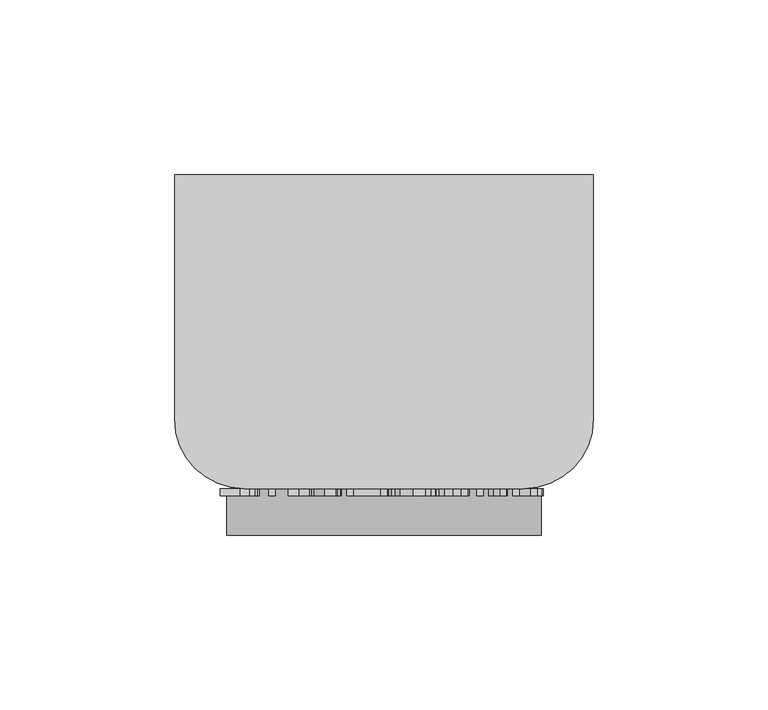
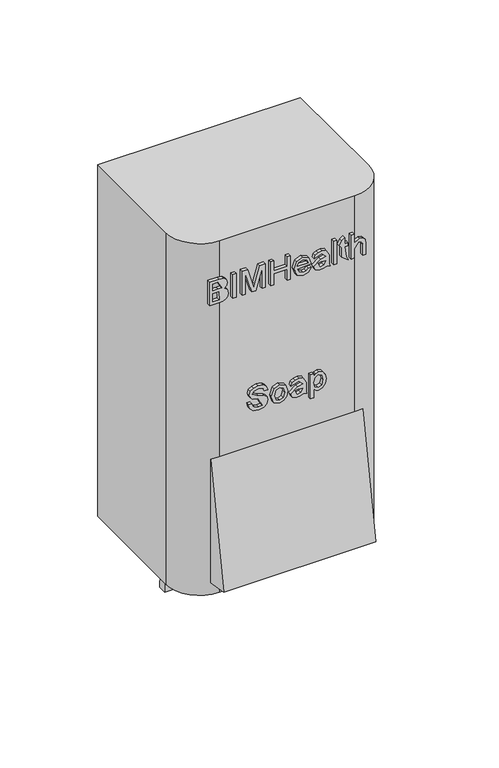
"""IFC4 building model written with IfcOpenShell, lengths in millimetres: furniture geometry, BIMHealth-Soap_Dispenser-LOD2A-v1 : BIMHealth-Soap_Dispenser-LOD2A-v1."""

import ifcopenshell
import ifcopenshell.guid

model = None  # the IFC model being written
_history = None  # IfcOwnerHistory: only IFC2X3 demands one
_inside = {}  # id of a spatial element -> (the spatial element, [elements in it])
_under = {}  # id of a project, library or spatial element -> (it, [spatial elements below it])
_declared = {}  # id of a project -> (the project, [libraries it declares])
_typed = {}  # id of a type object -> (the type object, [elements of that type])
_made_of = {}  # id of a material, layer set ... -> (it, [elements and type objects made of it])


def new_model(schema):
    """Start an empty IFC model of exactly this schema.

    Asked for "IFC4X3", IfcOpenShell would pick the latest addendum, in which some entities
    have other attributes; the version numbers below select the first issue.
    IFC2X3 requires an IfcOwnerHistory on every rooted entity: one is made here for all.
    """
    global model, _history
    if schema == "IFC4X3":
        model = ifcopenshell.file(schema_version=(4, 3, 0, 0))
    else:
        model = ifcopenshell.file(schema=schema)
    _inside.clear()
    _under.clear()
    _declared.clear()
    _typed.clear()
    _made_of.clear()
    _history = None
    if model.schema == "IFC2X3":
        org = make("IfcOrganization", Name="unknown")
        user = make(
            "IfcPersonAndOrganization",
            ThePerson=make("IfcPerson", FamilyName="unknown"),
            TheOrganization=org,
        )
        app = make(
            "IfcApplication",
            ApplicationDeveloper=org,
            Version="unknown",
            ApplicationFullName="unknown",
            ApplicationIdentifier="unknown",
        )
        _history = make(
            "IfcOwnerHistory",
            OwningUser=user,
            OwningApplication=app,
            ChangeAction="ADDED",
            CreationDate=0,
        )
    return model


def make(cls, **values):
    """One entity of the class cls with the attributes given. An attribute that is None is left unset."""
    return model.create_entity(
        cls, **{name: value for name, value in values.items() if value is not None}
    )


def rooted(cls, **values):
    """An entity with a GlobalId (a new one), such as an element, a storey or a relation."""
    return make(cls, GlobalId=ifcopenshell.guid.new(), OwnerHistory=_history, **values)


def si_unit(unit_type, name, prefix=None):
    """IfcSIUnit, for example si_unit("LENGTHUNIT", "METRE", prefix="MILLI")."""
    return make("IfcSIUnit", UnitType=unit_type, Prefix=prefix, Name=name)


def assignment(units):
    """IfcUnitAssignment: the units of a project."""
    return None if units is None else make("IfcUnitAssignment", Units=units)


def point(xyz):
    """IfcCartesianPoint."""
    return None if xyz is None else make("IfcCartesianPoint", Coordinates=xyz)


def direction(xyz):
    """IfcDirection."""
    return None if xyz is None else make("IfcDirection", DirectionRatios=xyz)


def frame(location, z_axis=None, x_axis=None):
    """IfcAxis2Placement3D, a coordinate frame: its origin and axes. An axis left out is left unset."""
    return make(
        "IfcAxis2Placement3D",
        Location=point(location),
        Axis=direction(z_axis),
        RefDirection=direction(x_axis),
    )


def frame_2d(location, x_axis=None):
    """IfcAxis2Placement2D, a coordinate frame in the plane: its origin and x axis."""
    return make(
        "IfcAxis2Placement2D", Location=point(location), RefDirection=direction(x_axis)
    )


def origin():
    """The frame at (0, 0, 0) with its axes left unset."""
    return frame((0.0, 0.0, 0.0))


def place(relative_to, where):
    """IfcLocalPlacement: puts the frame where relative to a parent placement (None: the world)."""
    return make(
        "IfcLocalPlacement", PlacementRelTo=relative_to, RelativePlacement=where
    )


def context(
    kind, dimensions, precision=None, world=None, true_north=None, identifier=None
):
    """IfcGeometricRepresentationContext, for example the 3D "Model" context."""
    return make(
        "IfcGeometricRepresentationContext",
        ContextIdentifier=identifier,
        ContextType=kind,
        CoordinateSpaceDimension=dimensions,
        Precision=precision,
        WorldCoordinateSystem=world,
        TrueNorth=true_north,
    )


def project(units=None, contexts=None):
    """IfcProject with its units and contexts."""
    return rooted(
        "IfcProject",
        Name="project",
        RepresentationContexts=contexts,
        UnitsInContext=assignment(units),
    )


def spatial(cls, under=None, at=None, **own):
    """A site, building, storey or space (cls), placed at a placement, below another one or the project."""
    s = rooted(cls, ObjectPlacement=at, **own)
    if under is not None:
        _under.setdefault(under.id(), (under, []))[1].append(s)
    return s


def polyline(points):
    """IfcPolyline through the points."""
    return make("IfcPolyline", Points=[point(p) for p in points])


def circle_curve(where, radius):
    """IfcCircle in the frame where."""
    return make("IfcCircle", Position=where, Radius=radius)


def trimmed(basis, trim1, trim2, sense, master):
    """IfcTrimmedCurve: the piece of a basis curve between two trims."""
    return make(
        "IfcTrimmedCurve",
        BasisCurve=basis,
        Trim1=trim1,
        Trim2=trim2,
        SenseAgreement=sense,
        MasterRepresentation=master,
    )


def segment(curve, same_sense, transition):
    """IfcCompositeCurveSegment."""
    return make(
        "IfcCompositeCurveSegment",
        Transition=transition,
        SameSense=same_sense,
        ParentCurve=curve,
    )


def composite_curve(segments, self_intersect=None):
    """IfcCompositeCurve: segments joined end to end."""
    return make("IfcCompositeCurve", Segments=segments, SelfIntersect=self_intersect)


def outline(outer, holes=None, kind="AREA"):
    """IfcArbitraryClosedProfileDef: a profile drawn as a closed curve; with holes, ...WithVoids."""
    if holes is None:
        return make("IfcArbitraryClosedProfileDef", ProfileType=kind, OuterCurve=outer)
    return make(
        "IfcArbitraryProfileDefWithVoids",
        ProfileType=kind,
        OuterCurve=outer,
        InnerCurves=holes,
    )


def extrude(swept, where, along, depth):
    """IfcExtrudedAreaSolid: the profile swept, set in the frame where, extruded along a direction by depth."""
    return make(
        "IfcExtrudedAreaSolid",
        SweptArea=swept,
        Position=where,
        ExtrudedDirection=direction(along),
        Depth=depth,
    )


def shape(context_of_items, identifier, shape_type, items):
    """IfcShapeRepresentation: the items that make up one representation, for example the "Body"."""
    return make(
        "IfcShapeRepresentation",
        ContextOfItems=context_of_items,
        RepresentationIdentifier=identifier,
        RepresentationType=shape_type,
        Items=items,
    )


def source(mapping_origin, context_of_items, identifier, shape_type, items):
    """IfcRepresentationMap: a shape defined once, which mapped items show again and again."""
    return make(
        "IfcRepresentationMap",
        MappingOrigin=mapping_origin,
        MappedRepresentation=shape(context_of_items, identifier, shape_type, items),
    )


def transform(
    local_origin,
    x_axis=None,
    y_axis=None,
    z_axis=None,
    scale=None,
    scale2=None,
    scale3=None,
    uniform=True,
):
    """IfcCartesianTransformationOperator3D, or its non-uniform kind. x_axis, y_axis, z_axis: its Axis1, 2, 3."""
    if uniform:
        return make(
            "IfcCartesianTransformationOperator3D",
            Axis1=direction(x_axis),
            Axis2=direction(y_axis),
            LocalOrigin=point(local_origin),
            Scale=scale,
            Axis3=direction(z_axis),
        )
    return make(
        "IfcCartesianTransformationOperator3DnonUniform",
        Axis1=direction(x_axis),
        Axis2=direction(y_axis),
        LocalOrigin=point(local_origin),
        Scale=scale,
        Axis3=direction(z_axis),
        Scale2=scale2,
        Scale3=scale3,
    )


def mapped(mapping_source, mapping_target):
    """IfcMappedItem: shows the shape of a source again, moved by a transform."""
    return make(
        "IfcMappedItem", MappingSource=mapping_source, MappingTarget=mapping_target
    )


def made_of(thing, what):
    """Note that an element or type object is made of a material, layer set ...; save() writes the relation."""
    if what is not None:
        _made_of.setdefault(what.id(), (what, []))[1].append(thing)
    return thing


def element(
    cls,
    number,
    at=None,
    inside=None,
    cuts=None,
    type_object=None,
    material=None,
    context=None,
    identifier="Body",
    shape_type=None,
    held_by="IfcProductDefinitionShape",
    body=None,
    shapes=None,
    **own,
):
    """One element of the class cls, such as IfcWall. Its Tag is "e" and its number.

    at: its placement. inside: the storey or other place that contains it. cuts: it is an
    opening in that element (IfcRelVoidsElement). A single representation is given by context,
    identifier, shape_type and body (its items); several are given by shapes. held_by: the class
    of the entity that holds the representations. save() writes the other relations.
    """
    e = rooted(cls, Tag="e%d" % number, ObjectPlacement=at, **own)
    if body is not None:
        shapes = [shape(context, identifier, shape_type, body)]
    if shapes is not None:
        e.Representation = make(held_by, Representations=shapes)
    if inside is not None:
        _inside.setdefault(inside.id(), (inside, []))[1].append(e)
    if cuts is not None:
        rooted(
            "IfcRelVoidsElement", RelatingBuildingElement=cuts, RelatedOpeningElement=e
        )
    if type_object is not None:
        _typed.setdefault(type_object.id(), (type_object, []))[1].append(e)
    return made_of(e, material)


def aggregate(whole, parts):
    """IfcRelAggregates: a whole, such as a stair, and the parts it consists of."""
    return rooted("IfcRelAggregates", RelatingObject=whole, RelatedObjects=parts)


def save(model, path):
    """Write the relations noted so far, then the file.

    IfcRelAggregates (storeys below a building ...), IfcRelContainedInSpatialStructure (elements
    in a storey), IfcRelDefinesByType, IfcRelAssociatesMaterial and IfcRelDeclares: one each for
    every whole, place, type object, material and project.
    """
    for whole, parts in _under.values():
        aggregate(whole, parts)
    for where, things in _inside.values():
        rooted(
            "IfcRelContainedInSpatialStructure",
            RelatedElements=things,
            RelatingStructure=where,
        )
    for kind, things in _typed.values():
        rooted("IfcRelDefinesByType", RelatedObjects=things, RelatingType=kind)
    for what, things in _made_of.values():
        rooted("IfcRelAssociatesMaterial", RelatedObjects=things, RelatingMaterial=what)
    for by, libraries in _declared.values():
        rooted("IfcRelDeclares", RelatingContext=by, RelatedDefinitions=libraries)
    model.write(path)


def plane_surface(at):
    """IfcPlane: the flat surface through the origin of the frame at, square to its z axis."""
    return make("IfcPlane", Position=at)


def cylinder_surface(at, radius):
    """IfcCylindricalSurface: all points at the distance radius from the z axis of the frame at."""
    return make("IfcCylindricalSurface", Position=at, Radius=radius)


def advanced_brep(points, edges, surfaces, faces):
    """IfcAdvancedBrep: a solid bounded by faces that lie on surfaces and meet in shared edges.

    An edge is (start, end): straight between two places in points (the first is 0);
    or (start, end, curve); or (start, end, curve, False) where it runs against its curve.
    A face is (place in surfaces, loops), or (place, loops, False) where it looks against
    its surface's normal. A loop lists edges by number (the first is 1), with a minus sign
    where the edge is run from its end to its start. The first loop is the outer one.
    """
    corners = [point(p) for p in points]
    vertices = [make("IfcVertexPoint", VertexGeometry=c) for c in corners]
    made = []
    for start, end, *more in edges:
        made.append(
            make(
                "IfcEdgeCurve",
                EdgeStart=vertices[start],
                EdgeEnd=vertices[end],
                EdgeGeometry=more[0] if more else make("IfcPolyline", Points=[corners[start], corners[end]]),
                SameSense=more[1] if len(more) > 1 else True,
            )
        )
    hull = []
    for where, loops, *sense in faces:
        bounds = []
        for j, loop in enumerate(loops):
            ring = [make("IfcOrientedEdge", EdgeElement=made[abs(k) - 1], Orientation=k > 0) for k in loop]
            bounds.append(
                make(
                    "IfcFaceOuterBound" if j == 0 else "IfcFaceBound",
                    Bound=make("IfcEdgeLoop", EdgeList=ring),
                    Orientation=True,
                )
            )
        hull.append(make("IfcAdvancedFace", Bounds=bounds, FaceSurface=surfaces[where], SameSense=sense[0] if sense else True))
    return make("IfcAdvancedBrep", Outer=make("IfcClosedShell", CfsFaces=hull))


def furniture_f7a0e78a(model_context):
    return source(origin(), model_context, "Body", "SolidModel", [
        extrude(outline(polyline([(1382.8683672, 13.1382718), (1382.8683672, 18.7308199), (1383.1225739, 21.0980074), (1383.8725739, 22.7043776), (1385.2860355, 23.7806997), (1387.2710114, 24.2151949), (1389.5678864, 23.5787766), (1390.9452903, 21.7596661), (1392.2523816, 23.2578632), (1393.9777422, 23.7536565), (1395.8671653, 23.1641132), (1397.2031028, 21.5343055), (1397.637598, 18.7740891), (1397.637598, 13.1382718), (1382.8683672, 13.1382718)]), holes=[polyline([(1384.714521, 14.9844257), (1389.7914441, 14.9844257), (1389.7914441, 18.5901949), (1384.714521, 18.7704834), (1384.714521, 14.9844257)]), polyline([(1391.637598, 14.9844257), (1395.7914441, 14.9844257), (1395.7914441, 18.0998103), (1391.7962518, 20.3245699), (1391.637598, 18.3558199), (1391.637598, 14.9844257)])]), frame((0.0, -92.0, 0.0), z_axis=(0.0, 1.0, 0.0), x_axis=(0.0, 0.0, 1.0)), (0.0, 0.0, 1.0), 2.0),
        extrude(outline(polyline([(28.8305795, -92.0), (26.9844257, -92.0), (26.9844257, -90.0), (28.8305795, -90.0), (28.8305795, -92.0)])), frame((0.0, 0.0, 1382.8683672), z_axis=(0.0, 0.0, 1.0), x_axis=(1.0, 0.0, 0.0)), (0.0, 0.0, 1.0), 14.7692308),
        extrude(outline(polyline([(1382.8683672, 32.5228872), (1382.8683672, 34.3690411), (1395.7914441, 34.3690411), (1382.8683672, 38.0793776), (1382.8683672, 40.5817815), (1395.7914441, 44.292118), (1382.8683672, 44.292118), (1382.8683672, 46.1382718), (1397.637598, 46.1382718), (1397.637598, 42.9615891), (1387.4080307, 39.9904353), (1385.0534634, 39.3305795), (1387.2277422, 38.7212045), (1397.637598, 35.6995699), (1397.637598, 32.5228872), (1382.8683672, 32.5228872)])), frame((0.0, -92.0, 0.0), z_axis=(0.0, 1.0, 0.0), x_axis=(0.0, 0.0, 1.0)), (0.0, 0.0, 1.0), 2.0),
        extrude(outline(polyline([(1382.8683672, 49.3690411), (1382.8683672, 51.2151949), (1389.7914441, 51.2151949), (1389.7914441, 59.0613488), (1382.8683672, 59.0613488), (1382.8683672, 60.9075026), (1397.637598, 60.9075026), (1397.637598, 59.0613488), (1391.637598, 59.0613488), (1391.637598, 51.2151949), (1397.637598, 51.2151949), (1397.637598, 49.3690411), (1382.8683672, 49.3690411)])), frame((0.0, -92.0, 0.0), z_axis=(0.0, 1.0, 0.0), x_axis=(0.0, 0.0, 1.0)), (0.0, 0.0, 1.0), 2.0),
        extrude(outline(polyline([(1386.0991364, 71.5012526), (1384.8695691, 70.3113488), (1384.4837518, 68.5012526), (1385.3166845, 66.1232478), (1387.714521, 65.0613488), (1388.2121172, 73.3690411), (1392.4416845, 71.9681997), (1393.9452903, 68.3606276), (1392.4380787, 64.6466853), (1388.2012999, 63.2151949), (1384.0997374, 64.6322622), (1382.637598, 68.4651949), (1383.4849537, 71.6184401), (1385.8683672, 73.3113488), (1386.0991364, 71.5012526)]), holes=[polyline([(1389.5606749, 65.0613488), (1391.4086316, 66.0799786), (1392.0991364, 68.3534161), (1391.2337518, 70.7837045), (1389.5606749, 71.5228872), (1389.5606749, 65.0613488)])]), frame((0.0, -92.0, 0.0), z_axis=(0.0, 1.0, 0.0), x_axis=(0.0, 0.0, 1.0)), (0.0, 0.0, 1.0), 2.0),
        extrude(outline(polyline([(1383.5606749, 82.3690411), (1382.8683672, 84.4459641), (1384.4206509, 84.0781757), (1387.6279826, 83.9844257), (1389.9248576, 83.9844257), (1393.6171653, 82.0643536), (1393.9452903, 79.8269738), (1393.573896, 77.3912766), (1392.5174057, 75.7831036), (1390.714521, 74.9844257), (1391.7439682, 77.7212045), (1392.0991364, 79.588993), (1389.7914441, 82.1274545), (1389.1568287, 78.9255315), (1385.7529826, 74.7536565), (1383.5137999, 75.6893536), (1382.637598, 78.370243), (1383.0017807, 80.3480074), (1383.5606749, 82.3690411)]), holes=[polyline([(1386.9699297, 81.9868295), (1384.9254585, 80.6310603), (1384.4837518, 78.7632718), (1387.0799057, 77.5715651), (1387.3791845, 79.1599065), (1386.9699297, 81.9868295)])]), frame((0.0, -92.0, 0.0), z_axis=(0.0, 1.0, 0.0), x_axis=(0.0, 0.0, 1.0)), (0.0, 0.0, 1.0), 2.0),
        extrude(outline(polyline([(88.3690411, -92.0), (86.5228872, -92.0), (86.5228872, -90.0), (88.3690411, -90.0), (88.3690411, -92.0)])), frame((0.0, 0.0, 1382.8683672), z_axis=(0.0, 0.0, 1.0), x_axis=(1.0, 0.0, 0.0)), (0.0, 0.0, 1.0), 14.7692308),
        extrude(outline(polyline([(1385.152622, 94.1382718), (1391.8683672, 93.2151949), (1391.8683672, 95.0613488), (1393.714521, 95.0613488), (1393.714521, 93.2151949), (1397.4356749, 93.2151949), (1396.3503384, 91.3690411), (1393.714521, 89.9844257), (1391.8683672, 91.3690411), (1385.8431268, 91.3690411), (1382.8142807, 95.292118), (1385.152622, 94.1382718)])), frame((0.0, -92.0, 0.0), z_axis=(0.0, 1.0, 0.0), x_axis=(0.0, 0.0, 1.0)), (0.0, 0.0, 1.0), 2.0),
        extrude(outline(polyline([(1382.8683672, 96.9075026), (1382.8683672, 98.7536565), (1388.6303864, 98.7536565), (1392.0991364, 101.5769738), (1391.4897614, 103.2428391), (1389.542646, 103.8305795), (1382.8683672, 103.8305795), (1382.8683672, 105.6767334), (1389.7337518, 105.6767334), (1392.1604345, 105.2981276), (1393.4711316, 104.0397141), (1393.9452903, 101.9663968), (1392.2073095, 98.7536565), (1397.637598, 98.7536565), (1397.637598, 96.9075026), (1382.8683672, 96.9075026)])), frame((0.0, -92.0, 0.0), z_axis=(0.0, 1.0, 0.0), x_axis=(0.0, 0.0, 1.0)), (0.0, 0.0, 1.0), 2.0),
        extrude(outline(polyline([(1312.9452903, 36.1959641), (1310.1255787, 36.9928391), (1308.2577903, 39.0787766), (1307.637598, 42.3762526), (1308.2127182, 45.1689209), (1309.824497, 47.072767), (1312.0330307, 47.7344257), (1314.120771, 47.1593055), (1315.6171653, 45.3726468), (1316.543848, 42.1058199), (1318.855146, 38.5036565), (1320.387598, 39.3329834), (1321.0222134, 41.9760122), (1320.3803864, 44.6118295), (1318.4837518, 45.6575026), (1318.4837518, 47.5036565), (1320.7950499, 46.7716853), (1322.3419249, 44.8245699), (1322.8683672, 41.9038968), (1322.3653624, 39.167118), (1320.8906028, 37.2975266), (1318.8010595, 36.6575026), (1316.965723, 37.1749305), (1315.5919249, 38.745243), (1314.6814682, 41.6388728), (1309.8208912, 44.2332238), (1309.4837518, 42.3041372), (1309.9290643, 40.0901949), (1311.0973335, 38.6370699), (1312.9452903, 38.042118), (1312.9452903, 36.1959641)])), frame((0.0, -92.0, 0.0), z_axis=(0.0, 1.0, 0.0), x_axis=(0.0, 0.0, 1.0)), (0.0, 0.0, 1.0), 2.0),
        extrude(outline(polyline([(1313.2914441, 49.8113488), (1309.0943287, 51.150892), (1307.637598, 54.6611084), (1308.2992566, 57.1617093), (1310.1580307, 58.9050988), (1313.4428864, 59.5036565), (1317.4831509, 58.1496901), (1318.9452903, 54.6611084), (1317.7445691, 51.4087045), (1313.2914441, 49.8113488)]), holes=[polyline([(1313.2950499, 51.6575026), (1316.152622, 52.5120699), (1317.0991364, 54.6611084), (1316.1490162, 56.7975266), (1313.3527422, 57.6575026), (1310.4392807, 56.8029353), (1309.4837518, 54.6611084), (1310.433872, 52.5120699), (1313.2950499, 51.6575026)])]), frame((0.0, -92.0, 0.0), z_axis=(0.0, 1.0, 0.0), x_axis=(0.0, 0.0, 1.0)), (0.0, 0.0, 1.0), 2.0),
        extrude(outline(polyline([(1308.5606749, 68.7344257), (1307.8683672, 70.8113488), (1309.4206509, 70.4435603), (1312.6279826, 70.3498103), (1314.9248576, 70.3498103), (1318.6171653, 68.4297382), (1318.9452903, 66.1923584), (1318.573896, 63.7566613), (1317.5174057, 62.1484882), (1315.714521, 61.3498103), (1316.7439682, 64.0865891), (1317.0991364, 65.9543776), (1314.7914441, 68.4928391), (1314.1568287, 65.2909161), (1310.7529826, 61.1190411), (1308.5137999, 62.0547382), (1307.637598, 64.7356276), (1308.0017807, 66.713392), (1308.5606749, 68.7344257)]), holes=[polyline([(1311.9699297, 68.3522141), (1309.9254585, 66.9964449), (1309.4837518, 65.1286565), (1312.0799057, 63.9369497), (1312.3791845, 65.5252911), (1311.9699297, 68.3522141)])]), frame((0.0, -92.0, 0.0), z_axis=(0.0, 1.0, 0.0), x_axis=(0.0, 0.0, 1.0)), (0.0, 0.0, 1.0), 2.0),
        extrude(outline(polyline([(1303.714521, 72.8882718), (1303.714521, 74.7344257), (1309.3106749, 74.7344257), (1308.1117566, 75.9044978), (1307.637598, 77.510868), (1308.3461316, 79.8456036), (1310.3833912, 81.5367093), (1313.3743768, 82.1190411), (1316.2193287, 81.6034161), (1318.231348, 80.0745699), (1318.9452903, 77.7344257), (1318.4350739, 76.010868), (1316.9044249, 74.7344257), (1318.714521, 74.7344257), (1318.714521, 72.8882718), (1303.714521, 72.8882718)]), holes=[polyline([(1313.2049057, 74.7344257), (1316.1021412, 75.5871901), (1317.0991364, 77.5469257), (1316.1616364, 79.4688007), (1313.3419249, 80.2728872), (1310.4248576, 79.448969), (1309.4837518, 77.4712045), (1310.3924057, 75.5331036), (1313.2049057, 74.7344257)])]), frame((0.0, -92.0, 0.0), z_axis=(0.0, 1.0, 0.0), x_axis=(0.0, 0.0, 1.0)), (0.0, 0.0, 1.0), 2.0),
        extrude(outline(composite_curve([segment(trimmed(circle_curve(frame_2d((60.0, -61.6073569)), 10.0), [point((50.0, -61.6073569))], [point((70.0, -61.6073569))], False, "CARTESIAN"), True, "CONTINUOUS"), segment(trimmed(circle_curve(frame_2d((60.0, -61.6073569)), 10.0), [point((70.0, -61.6073569))], [point((50.0, -61.6073569))], False, "CARTESIAN"), True, "CONTINUOUS")], self_intersect=False)), frame((0.0, 0.0, 1190.0), z_axis=(0.0, 0.0, 1.0), x_axis=(1.0, 0.0, 0.0)), (0.0, 0.0, 1.0), 10.0),
        advanced_brep(
        [(105.0, -90.0, 1285.0), (105.0, -103.2245236, 1210.0), (105.0, -90.0, 1207.6681597), (15.0, -90.0, 1285.0), (15.0, -90.0, 1207.6681597), (15.0, -103.2245236, 1210.0), (100.0, -90.0, 1285.0), (20.0, -90.0, 1285.0), (20.0, -90.0, 1207.6681597), (100.0, -90.0, 1207.6681597), (120.0, 0.0, 1420.0), (0.0, 0.0, 1420.0), (0.0, -70.0, 1420.0), (20.0, -90.0, 1420.0), (100.0, -90.0, 1420.0), (120.0, -70.0, 1420.0), (120.0, 0.0, 1200.0), (120.0, -70.0, 1200.0), (100.0, -90.0, 1200.0), (20.0, -90.0, 1200.0), (0.0, -70.0, 1200.0), (0.0, 0.0, 1200.0)],
        [
            (0, 1),
            (1, 2),
            (2, 0),
            (3, 4),
            (4, 5),
            (5, 3),
            (0, 6),
            (6, 7),
            (7, 3),
            (5, 1),
            (4, 8),
            (8, 9),
            (9, 2),
            (9, 6),
            (7, 8),
            (10, 11),
            (11, 12),
            (12, 13, circle_curve(frame((20.0, -70.0, 1420.0), z_axis=(0.0, 0.0, 1.0), x_axis=(1.0, 0.0, 0.0)), 20.0)),
            (13, 14),
            (14, 15, circle_curve(frame((100.0, -70.0, 1420.0), z_axis=(0.0, 0.0, 1.0), x_axis=(-1.0, 0.0, 0.0)), 20.0)),
            (15, 10),
            (16, 17),
            (17, 18, circle_curve(frame((100.0, -70.0, 1200.0), z_axis=(0.0, 0.0, -1.0), x_axis=(-1.0, 0.0, 0.0)), 20.0)),
            (18, 19),
            (19, 20, circle_curve(frame((20.0, -70.0, 1200.0), z_axis=(0.0, 0.0, -1.0), x_axis=(1.0, 0.0, 0.0)), 20.0)),
            (20, 21),
            (21, 16),
            (10, 16),
            (21, 11),
            (20, 12),
            (19, 8),
            (7, 13),
            (6, 14),
            (18, 9),
            (17, 15),
        ],
        [
            plane_surface(frame((105.0, -90.0, 1285.0), z_axis=(1.0000000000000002, 0.0, 0.0), x_axis=(0.0, -0.1736481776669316, -0.9848077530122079))),
            plane_surface(frame((15.0, -90.0, 1285.0), z_axis=(-1.0000000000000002, 0.0, 0.0), x_axis=(0.0, 0.1736481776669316, 0.9848077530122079))),
            plane_surface(frame((105.0, -90.0, 1285.0), z_axis=(0.0, -0.9848077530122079, 0.1736481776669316), x_axis=(-1.0, 0.0, 0.0))),
            plane_surface(frame((105.0, -103.2245236, 1210.0), z_axis=(0.0, -0.1736481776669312, -0.9848077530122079), x_axis=(-1.0, 0.0, 0.0))),
            plane_surface(frame((105.0, -90.0, 1207.6681597), z_axis=(0.0, 1.0, 0.0), x_axis=(-1.0, 0.0, 0.0))),
            plane_surface(frame((0.0, 0.0, 1420.0), z_axis=(0.0, 0.0, 1.0), x_axis=(-1.0, 0.0, 0.0))),
            plane_surface(frame((0.0, 0.0, 1200.0), z_axis=(0.0, 0.0, -1.0), x_axis=(1.0, 0.0, 0.0))),
            plane_surface(frame((120.0, 0.0, 1420.0), z_axis=(0.0, 1.0, 0.0), x_axis=(0.0, 0.0, -1.0))),
            plane_surface(frame((0.0, 0.0, 1420.0), z_axis=(-1.0, 0.0, 0.0), x_axis=(0.0, 0.0, -1.0))),
            cylinder_surface(frame((20.0, -70.0, 1200.0), z_axis=(0.0, 0.0, 1.0), x_axis=(1.0, 0.0, 0.0)), 20.0),
            plane_surface(frame((20.0, -90.0, 1420.0), z_axis=(0.0, -1.0, 0.0), x_axis=(0.0, 0.0, -1.0))),
            cylinder_surface(frame((100.0, -70.0, 1200.0), z_axis=(0.0, 0.0, 1.0), x_axis=(-1.0, 0.0, 0.0)), 20.0),
            plane_surface(frame((120.0, -70.0, 1420.0), z_axis=(1.0, 0.0, 0.0), x_axis=(0.0, 0.0, -1.0))),
        ],
        [
            (0, [[1, 2, 3]]),
            (1, [[4, 5, 6]]),
            (2, [[-1, 7, 8, 9, -6, 10]]),
            (3, [[-2, -10, -5, 11, 12, 13]]),
            (4, [[-3, -13, 14, -7]]),
            (4, [[-4, -9, 15, -11]]),
            (5, [[16, 17, 18, 19, 20, 21]]),
            (6, [[22, 23, 24, 25, 26, 27]]),
            (7, [[-16, 28, -27, 29]]),
            (8, [[-17, -29, -26, 30]]),
            (9, [[-18, -30, -25, 31, -15, 32]]),
            (10, [[-19, -32, -8, 33]]),
            (10, [[-24, 34, -12, -31]]),
            (11, [[-20, -33, -14, -34, -23, 35]]),
            (12, [[-21, -35, -22, -28]]),
        ],
    ),
        extrude(outline(composite_curve([segment(polyline([(-29.0586666, 1166.1925961), (-34.1073569, 1166.1925961)]), True, "CONTINUOUS"), segment(trimmed(circle_curve(frame_2d((14.5207715, 1172.632854)), 49.052745), [point((-34.1073569, 1166.1925961))], [point((-26.1880864, 1200.0))], False, "CARTESIAN"), True, "CONTINUOUS"), segment(polyline([(-26.1880864, 1200.0), (-20.0, 1200.0)]), True, "CONTINUOUS"), segment(trimmed(circle_curve(frame_2d((14.5207715, 1172.632854)), 44.052745), [point((-20.0, 1200.0))], [point((-29.0586666, 1166.1925961))], True, "CARTESIAN"), True, "CONTINUOUS")], self_intersect=False)), frame((20.0, 0.0, 0.0), z_axis=(1.0, 0.0, 0.0), x_axis=(0.0, 1.0, 0.0)), (0.0, 0.0, 1.0), 80.0),
    ])


if __name__ == "__main__":
    model = new_model("IFC4")
    model_context = context("Model", 3, world=origin())
    ifc_project = project(units=[si_unit("LENGTHUNIT", "METRE", prefix="MILLI")], contexts=[model_context])
    site = spatial("IfcSite", under=ifc_project)
    building = spatial("IfcBuilding", under=site)
    placement = place(None, origin())
    furniture_shape = furniture_f7a0e78a(model_context)
    element("IfcFurniture", 1, ObjectType="BIMHealth-Soap_Dispenser-LOD2A-v1 : BIMHealth-Soap_Dispenser-LOD2A-v1", at=placement, inside=building, context=model_context, shape_type="MappedRepresentation", body=[
        mapped(furniture_shape, transform((0.0, 0.0, 0.0), x_axis=(1.0, 0.0, 0.0), y_axis=(0.0, 1.0, 0.0), z_axis=(0.0, 0.0, 1.0))),
    ])
    save(model, "model.ifc")
